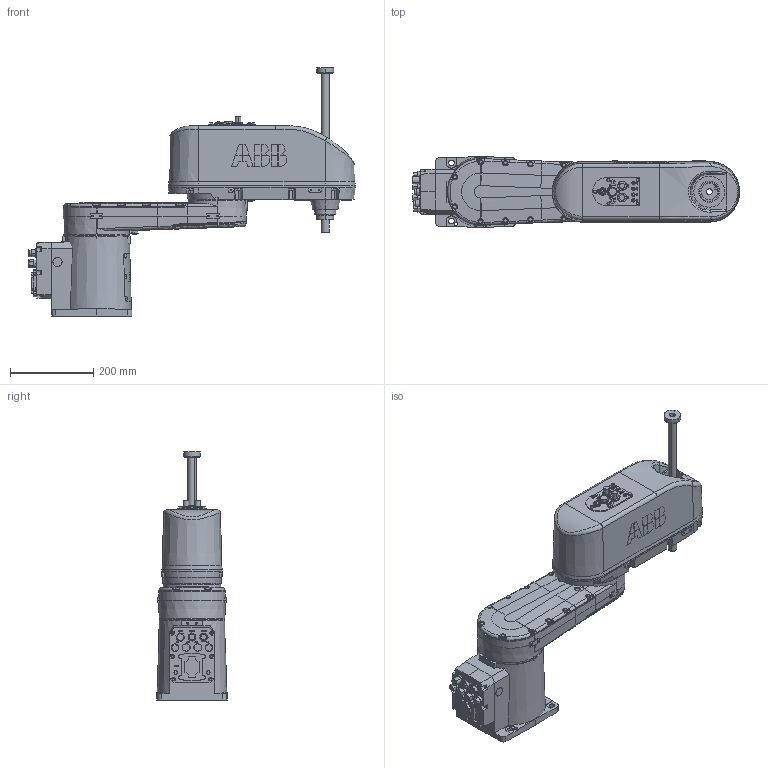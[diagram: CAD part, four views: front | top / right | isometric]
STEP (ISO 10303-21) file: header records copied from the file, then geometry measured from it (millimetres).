
FILE_DESCRIPTION (( 'STEP AP214' ), '1' );
FILE_NAME ('IRB920_6kg-550-180-STD_OmniCore_rev00_Assembly.STEP', '2022-06-20T05:03:08', ( '' ), ( '' ), 'SwSTEP 2.0', 'SolidWorks 2020', '' );
FILE_SCHEMA (( 'AUTOMOTIVE_DESIGN' ));
Length unit declared in the file: millimetre
Products named in the file (5): IRB920_6kg-550-180-STD_OmniCore_rev00_Assembly; IRB920_6kg-550-180-STD_OmniCore_rev00_LINK1_CAD; IRB920_6kg-550-180-STD_OmniCore_rev00_LINK3_CAD; IRB920_6kg-550-180-STD_OmniCore_rev00_LINK0_CAD; IRB920_6kg-550-180-STD_OmniCore_rev00_LINK2_CAD
Assembly tree (4 placements, depth 2):
  IRB920_6kg-550-180-STD_OmniCore_rev00_Assembly
    IRB920_6kg-550-180-STD_OmniCore_rev00_LINK0_CAD
    IRB920_6kg-550-180-STD_OmniCore_rev00_LINK1_CAD
    IRB920_6kg-550-180-STD_OmniCore_rev00_LINK2_CAD
    IRB920_6kg-550-180-STD_OmniCore_rev00_LINK3_CAD
Bounding box: 787 x 170 x 596.5 mm (x, y, z)
Volume: 19109140.4 mm3; surface area: 786131.2 mm2
Topology: 4 solids, 5 shells, 2197 faces, 5640 edges, 3657 vertices
Faces by surface type: plane 1185, bspline 388, cylinder 376, cone 234, torus 12, sphere 2
Entity records: 91335 total; most frequent: CARTESIAN_POINT 39223, ORIENTED_EDGE 11138, DIRECTION 8697, EDGE_CURVE 5569, VERTEX_POINT 3657, VECTOR 3289, LINE 3289, AXIS2_PLACEMENT_3D 2704
